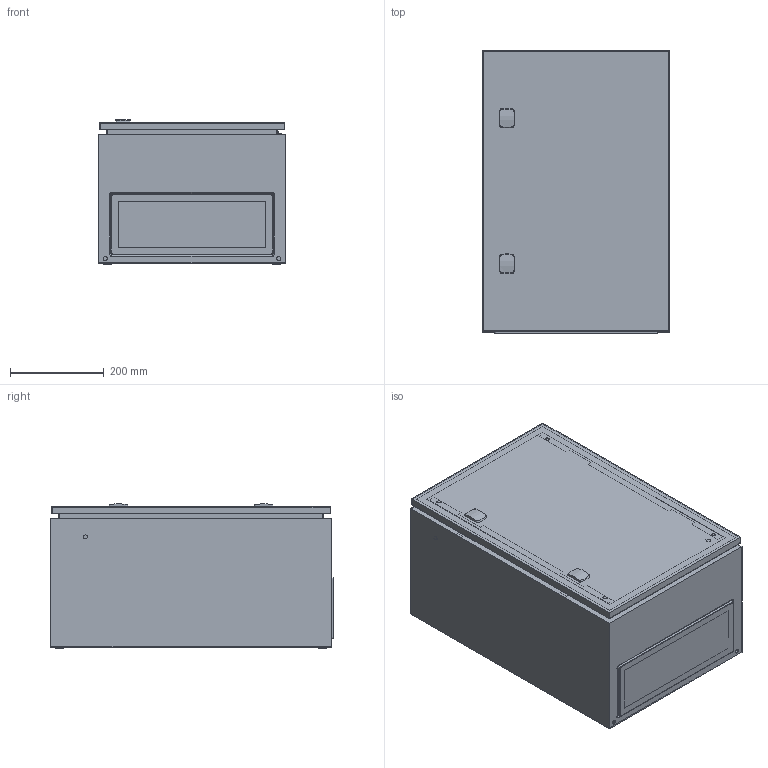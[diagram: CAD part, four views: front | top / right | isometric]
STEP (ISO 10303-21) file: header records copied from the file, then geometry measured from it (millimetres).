
FILE_DESCRIPTION(/* description */ ('STEP AP203'),/* implementation_level */ '2;1');
FILE_NAME(/* name */ 'MAS0604030R5(0)',/* time_stamp */ '2024-03-14T13:12:53+01:00',/* author */ ('License CC BY-ND 4.0'),/* organization */ ('CADENAS'),/* preprocessor_version */ 'ST-DEVELOPER v19.3',/* originating_system */ 'PARTsolutions',/* authorisation */ ' ');
FILE_SCHEMA (('CONFIG_CONTROL_DESIGN'));
Length unit declared in the file: millimetre
Products named in the file (8): MAS0604030R5(0); MAS0604030(0); MMSH06SS(0)_right; ADP06040R5(0); ALL503(0,0); AMP06040_MPL(0); AF02R5_GP(0); AG02_GPG(0)
Assembly tree (9 placements, depth 2):
  MAS0604030R5(0)
    MAS0604030(0)
    MMSH06SS(0)_right  x2
    ADP06040R5(0)
    ALL503(0,0)  x2
    AMP06040_MPL(0)
    AF02R5_GP(0)
    AG02_GPG(0)
Bounding box: 400 x 603.9 x 307.67 mm (x, y, z)
Volume: 2458353.4 mm3; surface area: 2824085.4 mm2
Topology: 9 solids, 9 shells, 530 faces, 1299 edges, 847 vertices
Faces by surface type: plane 355, cylinder 114, cone 57, torus 4
Full cylindrical faces by diameter (mm): 4.9 x2, 6 x4, 6.5 x2, 7 x4, 8 x7, 8.5 x4, 8.7 x2, 9 x2, 14 x7, 18 x2, 27 x2
Entity records: 13140 total; most frequent: CARTESIAN_POINT 2228, DIRECTION 2116, ORIENTED_EDGE 1970, EDGE_CURVE 985, AXIS2_PLACEMENT_3D 711, LINE 694, VECTOR 694, VERTEX_POINT 689
